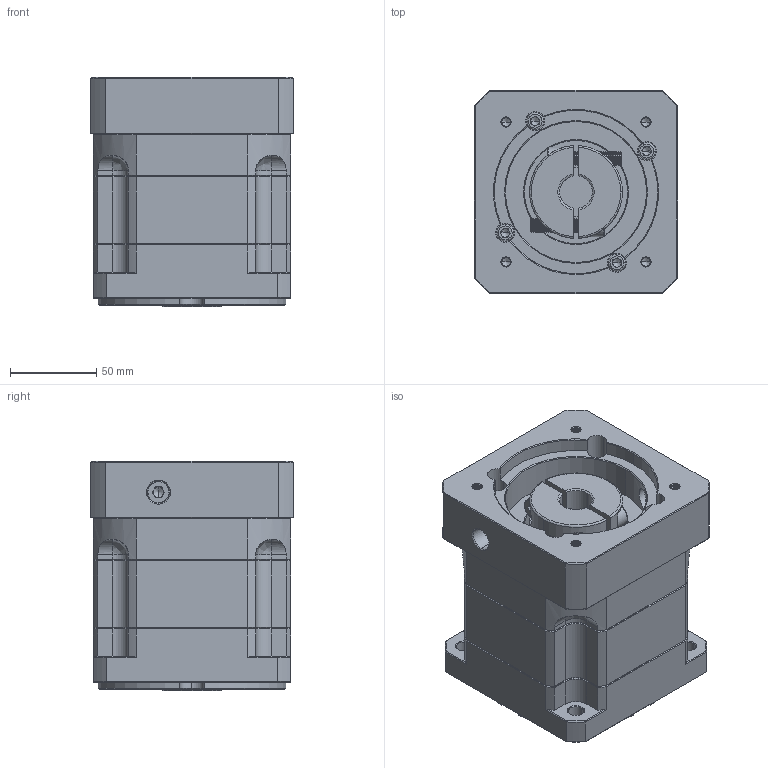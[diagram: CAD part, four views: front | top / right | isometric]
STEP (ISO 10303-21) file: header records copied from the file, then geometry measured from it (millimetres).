
FILE_DESCRIPTION (( 'STEP AP214' ), '1' );
FILE_NAME ('ZB115A-K25-L1-P2-19-95-115-M6.step', '2023-08-26T06:34:41', ( '' ), ( '' ), 'SwSTEP 2.0', 'SolidWorks 2016', '' );
FILE_SCHEMA (( 'AUTOMOTIVE_DESIGN' ));
Length unit declared in the file: millimetre
Products named in the file (1): ZB115A-K25-L1-P2-19-95-115-M6
Bounding box: 118 x 118 x 133.5 mm (x, y, z)
Volume: 1422580.5 mm3; surface area: 159169.5 mm2
Topology: 6 solids, 6 shells, 2327 faces, 6141 edges, 3910 vertices
Faces by surface type: plane 1137, bspline 434, cylinder 379, cone 377
Entity records: 121038 total; most frequent: CARTESIAN_POINT 41091, ORIENTED_EDGE 12218, DIRECTION 9762, EDGE_CURVE 6109, VECTOR 3932, LINE 3932, VERTEX_POINT 3910, AXIS2_PLACEMENT_3D 2915
